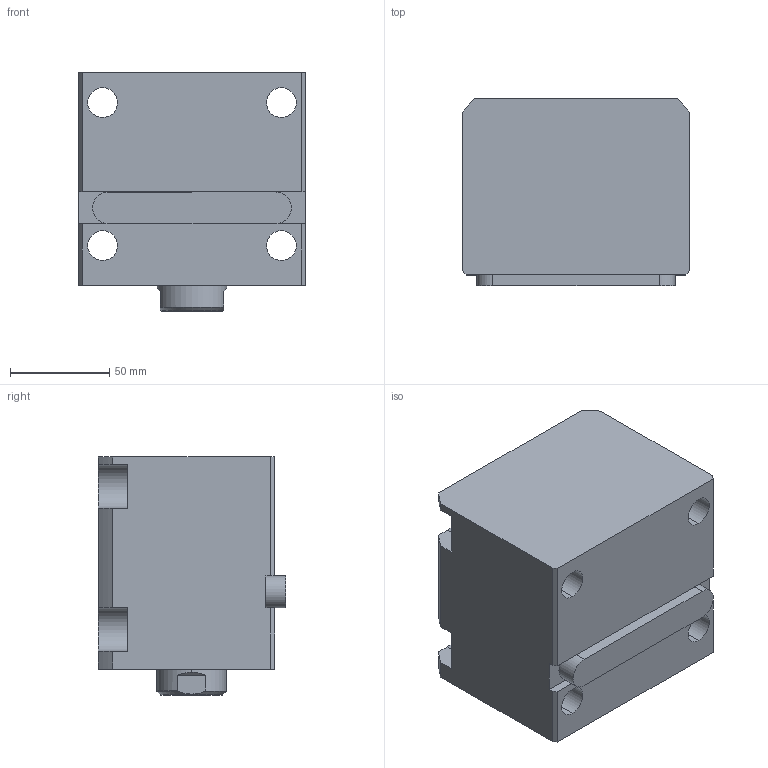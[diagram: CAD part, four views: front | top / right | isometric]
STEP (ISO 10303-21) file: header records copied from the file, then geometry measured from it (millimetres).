
FILE_DESCRIPTION (( 'STEP AP214' ), '1' );
FILE_NAME ('chtb-la63x40n_asm.STEP', '2018-05-02T08:41:44', ( 'Windows' ), ( 'Microsoft' ), 'SwSTEP 2.0', 'SolidWorks 2015', '' );
FILE_SCHEMA (( 'AUTOMOTIVE_DESIGN' ));
Length unit declared in the file: millimetre
Products named in the file (5): CHTB-63QG; CHTB-LA63X40NBT; CHTB-LA63PJ; CHTB63X40NHSG; chtb-la63x40n_asm
Assembly tree (4 placements, depth 2):
  chtb-la63x40n_asm
    CHTB-63QG
    CHTB63X40NHSG
    CHTB-LA63PJ
    CHTB-LA63X40NBT
Bounding box: 114 x 94.5 x 120 mm (x, y, z)
Volume: 922331.8 mm3; surface area: 145141.3 mm2
Topology: 4 solids, 4 shells, 174 faces, 510 edges, 348 vertices
Faces by surface type: cylinder 98, plane 45, bspline 12, cone 12, torus 7
Entity records: 18199 total; most frequent: CARTESIAN_POINT 13678, ORIENTED_EDGE 1008, DIRECTION 778, EDGE_CURVE 504, VERTEX_POINT 348, AXIS2_PLACEMENT_3D 295, EDGE_LOOP 198, VECTOR 188
